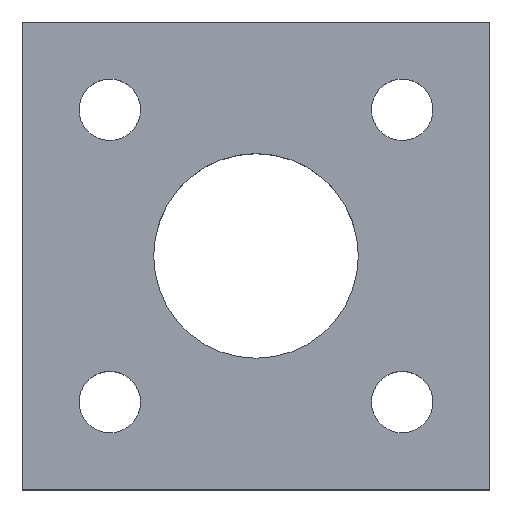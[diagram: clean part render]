
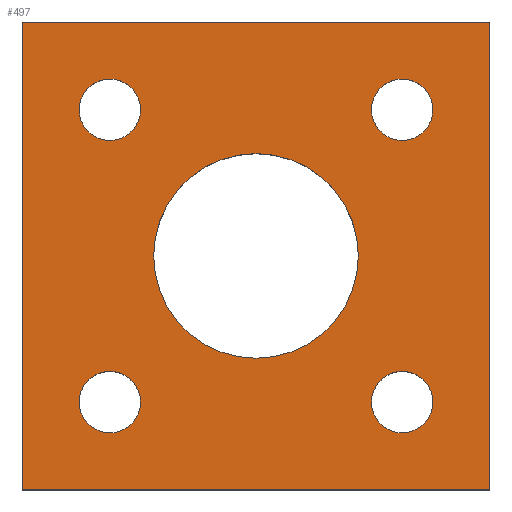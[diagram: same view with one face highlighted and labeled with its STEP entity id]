
A CAD part, top view. The second image highlights one B-rep face of the part: STEP entity #497.
In plain terms, the highlighted planar face has unit normal (0, 0, 1).
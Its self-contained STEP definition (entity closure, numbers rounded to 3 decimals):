
#1 = VECTOR ( 'NONE', #64, 1000. ) ;
#2 = AXIS2_PLACEMENT_3D ( 'NONE', #540, #225, #594 ) ;
#3 = DIRECTION ( 'NONE',  ( 0., 1., 0. ) ) ;
#13 = ORIENTED_EDGE ( 'NONE', *, *, #538, .T. ) ;
#16 = CIRCLE ( 'NONE', #2, 5.25 ) ;
#19 = CARTESIAN_POINT ( 'NONE',  ( 0., 0., 15. ) ) ;
#28 = CIRCLE ( 'NONE', #597, 5.25 ) ;
#30 = DIRECTION ( 'NONE',  ( -1., 0., 0. ) ) ;
#31 = VERTEX_POINT ( 'NONE', #600 ) ;
#34 = EDGE_LOOP ( 'NONE', ( #612, #104 ) ) ;
#47 = CARTESIAN_POINT ( 'NONE',  ( 30.25, -25., 15. ) ) ;
#48 = EDGE_CURVE ( 'NONE', #175, #421, #28, .T. ) ;
#51 = CARTESIAN_POINT ( 'NONE',  ( 40., 40., 15. ) ) ;
#59 = CIRCLE ( 'NONE', #297, 5.25 ) ;
#64 = DIRECTION ( 'NONE',  ( 1., 0., 0. ) ) ;
#66 = CARTESIAN_POINT ( 'NONE',  ( 0., 0., 15. ) ) ;
#83 = VERTEX_POINT ( 'NONE', #476 ) ;
#91 = DIRECTION ( 'NONE',  ( 1., 0., 0. ) ) ;
#97 = DIRECTION ( 'NONE',  ( 0., 0., -1. ) ) ;
#99 = DIRECTION ( 'NONE',  ( -1., 0., 0. ) ) ;
#104 = ORIENTED_EDGE ( 'NONE', *, *, #587, .T. ) ;
#106 = CARTESIAN_POINT ( 'NONE',  ( 25., 25., 15. ) ) ;
#110 = EDGE_CURVE ( 'NONE', #679, #201, #671, .T. ) ;
#113 = VERTEX_POINT ( 'NONE', #121 ) ;
#121 = CARTESIAN_POINT ( 'NONE',  ( -30.25, -25., 15. ) ) ;
#122 = AXIS2_PLACEMENT_3D ( 'NONE', #231, #599, #280 ) ;
#126 = FACE_OUTER_BOUND ( 'NONE', #616, .T. ) ;
#129 = EDGE_CURVE ( 'NONE', #421, #175, #59, .T. ) ;
#144 = CIRCLE ( 'NONE', #309, 5.25 ) ;
#145 = CARTESIAN_POINT ( 'NONE',  ( -40., 40., 15. ) ) ;
#161 = DIRECTION ( 'NONE',  ( -1., 0., 0. ) ) ;
#163 = CARTESIAN_POINT ( 'NONE',  ( 19.75, 25., 15. ) ) ;
#170 = EDGE_CURVE ( 'NONE', #201, #679, #574, .T. ) ;
#175 = VERTEX_POINT ( 'NONE', #266 ) ;
#181 = DIRECTION ( 'NONE',  ( 0., 0., 1. ) ) ;
#185 = EDGE_LOOP ( 'NONE', ( #593, #325 ) ) ;
#190 = CARTESIAN_POINT ( 'NONE',  ( -25., -25., 15. ) ) ;
#191 = ORIENTED_EDGE ( 'NONE', *, *, #492, .T. ) ;
#201 = VERTEX_POINT ( 'NONE', #648 ) ;
#202 = DIRECTION ( 'NONE',  ( 0., 0., -1. ) ) ;
#203 = CIRCLE ( 'NONE', #617, 5.25 ) ;
#205 = VERTEX_POINT ( 'NONE', #145 ) ;
#213 = EDGE_LOOP ( 'NONE', ( #530, #191 ) ) ;
#225 = DIRECTION ( 'NONE',  ( 0., 0., -1. ) ) ;
#231 = CARTESIAN_POINT ( 'NONE',  ( 0., 0., 15. ) ) ;
#240 = DIRECTION ( 'NONE',  ( -1., 0., 0. ) ) ;
#248 = EDGE_LOOP ( 'NONE', ( #436, #588 ) ) ;
#266 = CARTESIAN_POINT ( 'NONE',  ( 19.75, -25., 15. ) ) ;
#267 = VECTOR ( 'NONE', #319, 1000. ) ;
#269 = FACE_BOUND ( 'NONE', #34, .T. ) ;
#273 = VERTEX_POINT ( 'NONE', #163 ) ;
#275 = EDGE_CURVE ( 'NONE', #544, #83, #589, .T. ) ;
#278 = VERTEX_POINT ( 'NONE', #51 ) ;
#279 = FACE_BOUND ( 'NONE', #213, .T. ) ;
#280 = DIRECTION ( 'NONE',  ( 1., 0., 0. ) ) ;
#291 = CARTESIAN_POINT ( 'NONE',  ( 40., -40., 15. ) ) ;
#297 = AXIS2_PLACEMENT_3D ( 'NONE', #548, #417, #99 ) ;
#299 = EDGE_CURVE ( 'NONE', #625, #113, #203, .T. ) ;
#307 = LINE ( 'NONE', #642, #1 ) ;
#309 = AXIS2_PLACEMENT_3D ( 'NONE', #608, #358, #30 ) ;
#313 = ORIENTED_EDGE ( 'NONE', *, *, #623, .T. ) ;
#319 = DIRECTION ( 'NONE',  ( 0., -1., 0. ) ) ;
#324 = CARTESIAN_POINT ( 'NONE',  ( -25., 25., 15. ) ) ;
#325 = ORIENTED_EDGE ( 'NONE', *, *, #299, .T. ) ;
#335 = CARTESIAN_POINT ( 'NONE',  ( -19.75, -25., 15. ) ) ;
#337 = PLANE ( 'NONE',  #415 ) ;
#358 = DIRECTION ( 'NONE',  ( 0., 0., -1. ) ) ;
#360 = AXIS2_PLACEMENT_3D ( 'NONE', #106, #481, #161 ) ;
#362 = CARTESIAN_POINT ( 'NONE',  ( -30.25, 25., 15. ) ) ;
#376 = VECTOR ( 'NONE', #515, 1000. ) ;
#378 = DIRECTION ( 'NONE',  ( -1., 0., 0. ) ) ;
#383 = CARTESIAN_POINT ( 'NONE',  ( 30.25, 25., 15. ) ) ;
#384 = EDGE_CURVE ( 'NONE', #205, #31, #405, .T. ) ;
#397 = EDGE_CURVE ( 'NONE', #273, #633, #683, .T. ) ;
#405 = LINE ( 'NONE', #517, #267 ) ;
#406 = FACE_BOUND ( 'NONE', #510, .T. ) ;
#408 = DIRECTION ( 'NONE',  ( 0., 0., 1. ) ) ;
#413 = CARTESIAN_POINT ( 'NONE',  ( 25., -25., 15. ) ) ;
#415 = AXIS2_PLACEMENT_3D ( 'NONE', #66, #408, #91 ) ;
#416 = VECTOR ( 'NONE', #3, 1000. ) ;
#417 = DIRECTION ( 'NONE',  ( 0., 0., -1. ) ) ;
#421 = VERTEX_POINT ( 'NONE', #47 ) ;
#428 = ORIENTED_EDGE ( 'NONE', *, *, #640, .T. ) ;
#429 = EDGE_CURVE ( 'NONE', #113, #625, #545, .T. ) ;
#436 = ORIENTED_EDGE ( 'NONE', *, *, #48, .T. ) ;
#466 = DIRECTION ( 'NONE',  ( -1., 0., 0. ) ) ;
#476 = CARTESIAN_POINT ( 'NONE',  ( -19.75, 25., 15. ) ) ;
#480 = AXIS2_PLACEMENT_3D ( 'NONE', #19, #181, #551 ) ;
#481 = DIRECTION ( 'NONE',  ( 0., 0., -1. ) ) ;
#492 = EDGE_CURVE ( 'NONE', #633, #273, #144, .T. ) ;
#497 = ADVANCED_FACE ( 'NONE', ( #279, #269, #684, #406, #126, #665 ), #337, .T. ) ;
#510 = EDGE_LOOP ( 'NONE', ( #601, #654 ) ) ;
#515 = DIRECTION ( 'NONE',  ( -1., 0., 0. ) ) ;
#516 = CARTESIAN_POINT ( 'NONE',  ( -25., -25., 15. ) ) ;
#517 = CARTESIAN_POINT ( 'NONE',  ( -40., -40., 15. ) ) ;
#518 = CARTESIAN_POINT ( 'NONE',  ( 40., 40., 15. ) ) ;
#530 = ORIENTED_EDGE ( 'NONE', *, *, #397, .T. ) ;
#538 = EDGE_CURVE ( 'NONE', #278, #205, #649, .T. ) ;
#540 = CARTESIAN_POINT ( 'NONE',  ( -25., 25., 15. ) ) ;
#544 = VERTEX_POINT ( 'NONE', #362 ) ;
#545 = CIRCLE ( 'NONE', #566, 5.25 ) ;
#548 = CARTESIAN_POINT ( 'NONE',  ( 25., -25., 15. ) ) ;
#551 = DIRECTION ( 'NONE',  ( 1., 0., 0. ) ) ;
#556 = VERTEX_POINT ( 'NONE', #291 ) ;
#557 = DIRECTION ( 'NONE',  ( 0., 0., -1. ) ) ;
#560 = LINE ( 'NONE', #596, #416 ) ;
#566 = AXIS2_PLACEMENT_3D ( 'NONE', #190, #557, #240 ) ;
#567 = DIRECTION ( 'NONE',  ( -1., 0., 0. ) ) ;
#574 = CIRCLE ( 'NONE', #480, 17.5 ) ;
#581 = AXIS2_PLACEMENT_3D ( 'NONE', #324, #688, #378 ) ;
#587 = EDGE_CURVE ( 'NONE', #83, #544, #16, .T. ) ;
#588 = ORIENTED_EDGE ( 'NONE', *, *, #129, .T. ) ;
#589 = CIRCLE ( 'NONE', #581, 5.25 ) ;
#593 = ORIENTED_EDGE ( 'NONE', *, *, #429, .T. ) ;
#594 = DIRECTION ( 'NONE',  ( -1., 0., 0. ) ) ;
#596 = CARTESIAN_POINT ( 'NONE',  ( 40., -40., 15. ) ) ;
#597 = AXIS2_PLACEMENT_3D ( 'NONE', #413, #97, #466 ) ;
#599 = DIRECTION ( 'NONE',  ( 0., 0., 1. ) ) ;
#600 = CARTESIAN_POINT ( 'NONE',  ( -40., -40., 15. ) ) ;
#601 = ORIENTED_EDGE ( 'NONE', *, *, #110, .F. ) ;
#608 = CARTESIAN_POINT ( 'NONE',  ( 25., 25., 15. ) ) ;
#612 = ORIENTED_EDGE ( 'NONE', *, *, #275, .T. ) ;
#616 = EDGE_LOOP ( 'NONE', ( #662, #313, #428, #13 ) ) ;
#617 = AXIS2_PLACEMENT_3D ( 'NONE', #516, #202, #567 ) ;
#623 = EDGE_CURVE ( 'NONE', #31, #556, #307, .T. ) ;
#625 = VERTEX_POINT ( 'NONE', #335 ) ;
#633 = VERTEX_POINT ( 'NONE', #383 ) ;
#640 = EDGE_CURVE ( 'NONE', #556, #278, #560, .T. ) ;
#642 = CARTESIAN_POINT ( 'NONE',  ( 40., -40., 15. ) ) ;
#645 = CARTESIAN_POINT ( 'NONE',  ( -17.5, 0., 15. ) ) ;
#648 = CARTESIAN_POINT ( 'NONE',  ( 17.5, 0., 15. ) ) ;
#649 = LINE ( 'NONE', #518, #376 ) ;
#654 = ORIENTED_EDGE ( 'NONE', *, *, #170, .F. ) ;
#662 = ORIENTED_EDGE ( 'NONE', *, *, #384, .T. ) ;
#665 = FACE_BOUND ( 'NONE', #248, .T. ) ;
#671 = CIRCLE ( 'NONE', #122, 17.5 ) ;
#679 = VERTEX_POINT ( 'NONE', #645 ) ;
#683 = CIRCLE ( 'NONE', #360, 5.25 ) ;
#684 = FACE_BOUND ( 'NONE', #185, .T. ) ;
#688 = DIRECTION ( 'NONE',  ( 0., 0., -1. ) ) ;
